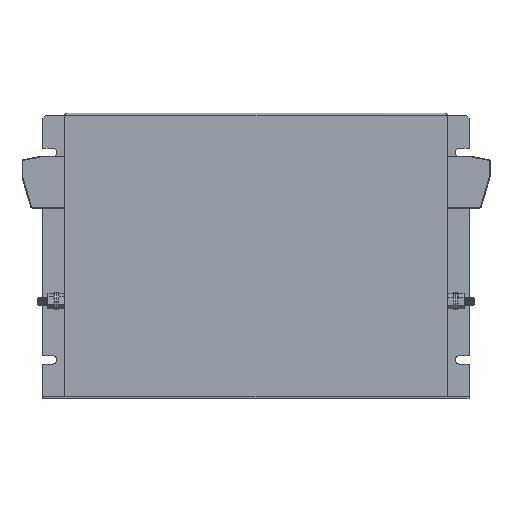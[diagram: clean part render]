
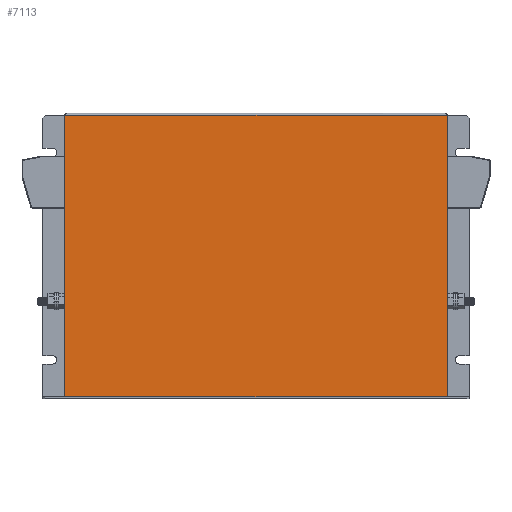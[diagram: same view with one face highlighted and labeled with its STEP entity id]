
A CAD part, top view. The second image highlights one B-rep face of the part: STEP entity #7113.
In plain terms, the highlighted planar face has unit normal (0, 0, 1).
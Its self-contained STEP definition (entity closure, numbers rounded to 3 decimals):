
#382 = DIRECTION ( 'NONE',  ( -1., 0., 0. ) ) ;
#558 = VECTOR ( 'NONE', #1750, 1000. ) ;
#992 = VERTEX_POINT ( 'NONE', #5763 ) ;
#1070 = CARTESIAN_POINT ( 'NONE',  ( 17., 1.5, 1.5 ) ) ;
#1156 = DIRECTION ( 'NONE',  ( 0., 0., -1. ) ) ;
#1176 = CARTESIAN_POINT ( 'NONE',  ( 312., 1.5, 1.5 ) ) ;
#1486 = LINE ( 'NONE', #9046, #3842 ) ;
#1489 = DIRECTION ( 'NONE',  ( 0., -1., 0. ) ) ;
#1502 = CARTESIAN_POINT ( 'NONE',  ( 17., 1.5, 1.5 ) ) ;
#1750 = DIRECTION ( 'NONE',  ( -1., 0., 0. ) ) ;
#2058 = VERTEX_POINT ( 'NONE', #1502 ) ;
#2640 = ORIENTED_EDGE ( 'NONE', *, *, #6671, .T. ) ;
#3231 = ORIENTED_EDGE ( 'NONE', *, *, #6515, .F. ) ;
#3440 = DIRECTION ( 'NONE',  ( 0., -1., 0. ) ) ;
#3842 = VECTOR ( 'NONE', #1489, 1000. ) ;
#4076 = LINE ( 'NONE', #6371, #558 ) ;
#4135 = CARTESIAN_POINT ( 'NONE',  ( 17., 220., 1.5 ) ) ;
#4178 = VECTOR ( 'NONE', #7893, 1000. ) ;
#4878 = PLANE ( 'NONE',  #6801 ) ;
#4893 = VERTEX_POINT ( 'NONE', #1176 ) ;
#4970 = CARTESIAN_POINT ( 'NONE',  ( 17., 220., 1.5 ) ) ;
#5763 = CARTESIAN_POINT ( 'NONE',  ( 312., 218.5, 1.5 ) ) ;
#6157 = EDGE_LOOP ( 'NONE', ( #3231, #2640, #7725, #6424 ) ) ;
#6371 = CARTESIAN_POINT ( 'NONE',  ( 17., 218.5, 1.5 ) ) ;
#6424 = ORIENTED_EDGE ( 'NONE', *, *, #7594, .T. ) ;
#6515 = EDGE_CURVE ( 'NONE', #992, #4893, #1486, .T. ) ;
#6653 = LINE ( 'NONE', #1070, #4178 ) ;
#6671 = EDGE_CURVE ( 'NONE', #992, #6969, #4076, .T. ) ;
#6801 = AXIS2_PLACEMENT_3D ( 'NONE', #4970, #1156, #382 ) ;
#6969 = VERTEX_POINT ( 'NONE', #7743 ) ;
#7101 = VECTOR ( 'NONE', #3440, 1000. ) ;
#7113 = ADVANCED_FACE ( 'NONE', ( #7735 ), #4878, .F. ) ;
#7594 = EDGE_CURVE ( 'NONE', #2058, #4893, #6653, .T. ) ;
#7725 = ORIENTED_EDGE ( 'NONE', *, *, #8148, .T. ) ;
#7735 = FACE_OUTER_BOUND ( 'NONE', #6157, .T. ) ;
#7743 = CARTESIAN_POINT ( 'NONE',  ( 17., 218.5, 1.5 ) ) ;
#7893 = DIRECTION ( 'NONE',  ( 1., 0., 0. ) ) ;
#8148 = EDGE_CURVE ( 'NONE', #6969, #2058, #9012, .T. ) ;
#9012 = LINE ( 'NONE', #4135, #7101 ) ;
#9046 = CARTESIAN_POINT ( 'NONE',  ( 312., 220., 1.5 ) ) ;
